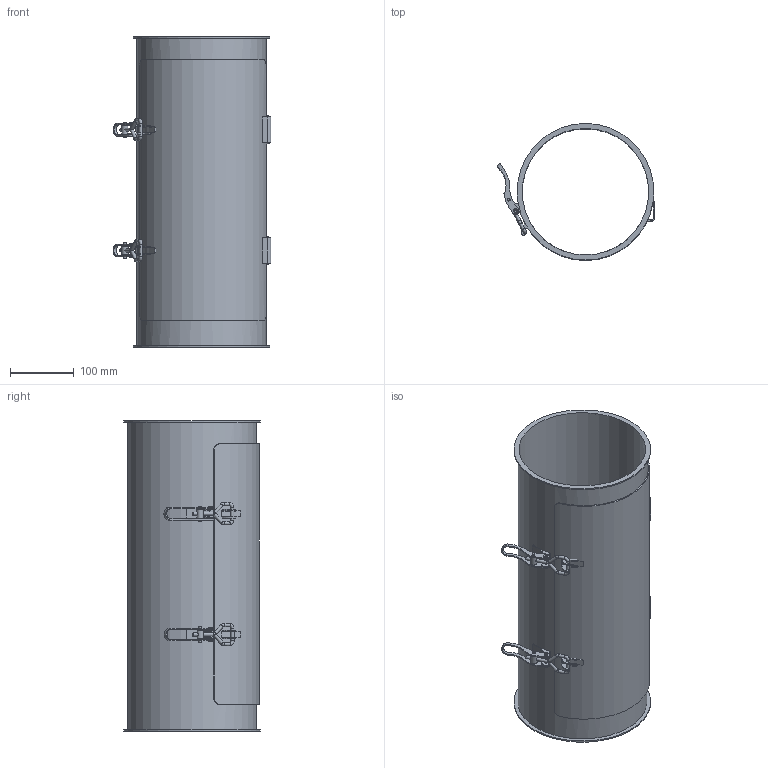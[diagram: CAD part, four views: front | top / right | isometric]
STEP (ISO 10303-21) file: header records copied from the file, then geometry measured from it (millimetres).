
FILE_DESCRIPTION((''),'2;1');
FILE_NAME('U:\Wolfgang\Marcel-3D\fertig\Kapitel 4\2021142.stp','2011-04-21T08:27:21',('TK1'),(''),'Autodesk Inventor 2010','Autodesk Inventor 2010','');
FILE_SCHEMA(('AUTOMOTIVE_DESIGN { 1 0 10303 214 1 1 1 1 }'));
Length unit declared in the file: millimetre
Products named in the file (14): 2021142; 2021142-Rohr; GelenkDeckel2021142; Verschluss2021142; Verschluss20a; Verschluss1b; Verschluss1c; Verschluss1d; Verschluss1e; Deckel20; 2021142 Halterung2; 2021142 Verschluss; 2021142-Deckel; 2021142 Halterung3
Assembly tree (19 placements, depth 3):
  2021142
    2021142-Rohr
    GelenkDeckel2021142  x2
    Verschluss2021142  x2
      Verschluss20a
      Verschluss1b
      Verschluss1c
      Verschluss1d
      Verschluss1e
    Deckel20
      2021142 Halterung2  x2
      2021142 Verschluss  x2
      2021142-Deckel
    2021142 Halterung3  x2
Bounding box: 247.97 x 215 x 488 mm (x, y, z)
Volume: 740886.1 mm3; surface area: 752144 mm2
Topology: 22 solids, 22 shells, 336 faces, 803 edges, 519 vertices
Faces by surface type: plane 159, cylinder 148, torus 18, bspline 7, sphere 4
Full cylindrical faces by diameter (mm): 2 x8, 4 x8, 5 x12, 6 x12, 6.2 x4, 10 x2, 199 x1, 203 x1, 215 x2
Entity records: 5649 total; most frequent: CARTESIAN_POINT 1144, DIRECTION 922, ORIENTED_EDGE 770, EDGE_CURVE 385, AXIS2_PLACEMENT_3D 356, VERTEX_POINT 270, EDGE_LOOP 243, VECTOR 210
